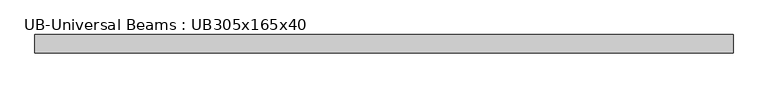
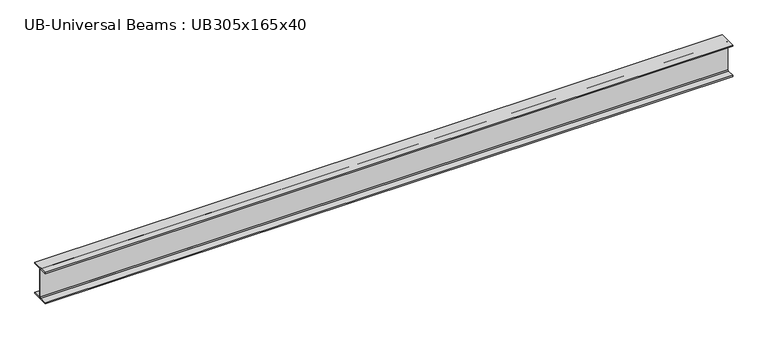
"""IFC4 building model written with IfcOpenShell, lengths in millimetres: beam geometry, UB-Universal Beams : UB305x165x40."""

import ifcopenshell
import ifcopenshell.guid

model = None  # the IFC model being written
_history = None  # IfcOwnerHistory: only IFC2X3 demands one
_inside = {}  # id of a spatial element -> (the spatial element, [elements in it])
_under = {}  # id of a project, library or spatial element -> (it, [spatial elements below it])
_declared = {}  # id of a project -> (the project, [libraries it declares])
_typed = {}  # id of a type object -> (the type object, [elements of that type])
_made_of = {}  # id of a material, layer set ... -> (it, [elements and type objects made of it])


def new_model(schema):
    """Start an empty IFC model of exactly this schema.

    Asked for "IFC4X3", IfcOpenShell would pick the latest addendum, in which some entities
    have other attributes; the version numbers below select the first issue.
    IFC2X3 requires an IfcOwnerHistory on every rooted entity: one is made here for all.
    """
    global model, _history
    if schema == "IFC4X3":
        model = ifcopenshell.file(schema_version=(4, 3, 0, 0))
    else:
        model = ifcopenshell.file(schema=schema)
    _inside.clear()
    _under.clear()
    _declared.clear()
    _typed.clear()
    _made_of.clear()
    _history = None
    if model.schema == "IFC2X3":
        org = make("IfcOrganization", Name="unknown")
        user = make(
            "IfcPersonAndOrganization",
            ThePerson=make("IfcPerson", FamilyName="unknown"),
            TheOrganization=org,
        )
        app = make(
            "IfcApplication",
            ApplicationDeveloper=org,
            Version="unknown",
            ApplicationFullName="unknown",
            ApplicationIdentifier="unknown",
        )
        _history = make(
            "IfcOwnerHistory",
            OwningUser=user,
            OwningApplication=app,
            ChangeAction="ADDED",
            CreationDate=0,
        )
    return model


def make(cls, **values):
    """One entity of the class cls with the attributes given. An attribute that is None is left unset."""
    return model.create_entity(
        cls, **{name: value for name, value in values.items() if value is not None}
    )


def rooted(cls, **values):
    """An entity with a GlobalId (a new one), such as an element, a storey or a relation."""
    return make(cls, GlobalId=ifcopenshell.guid.new(), OwnerHistory=_history, **values)


def si_unit(unit_type, name, prefix=None):
    """IfcSIUnit, for example si_unit("LENGTHUNIT", "METRE", prefix="MILLI")."""
    return make("IfcSIUnit", UnitType=unit_type, Prefix=prefix, Name=name)


def assignment(units):
    """IfcUnitAssignment: the units of a project."""
    return None if units is None else make("IfcUnitAssignment", Units=units)


def point(xyz):
    """IfcCartesianPoint."""
    return None if xyz is None else make("IfcCartesianPoint", Coordinates=xyz)


def direction(xyz):
    """IfcDirection."""
    return None if xyz is None else make("IfcDirection", DirectionRatios=xyz)


def frame(location, z_axis=None, x_axis=None):
    """IfcAxis2Placement3D, a coordinate frame: its origin and axes. An axis left out is left unset."""
    return make(
        "IfcAxis2Placement3D",
        Location=point(location),
        Axis=direction(z_axis),
        RefDirection=direction(x_axis),
    )


def frame_2d(location, x_axis=None):
    """IfcAxis2Placement2D, a coordinate frame in the plane: its origin and x axis."""
    return make(
        "IfcAxis2Placement2D", Location=point(location), RefDirection=direction(x_axis)
    )


def origin():
    """The frame at (0, 0, 0) with its axes left unset."""
    return frame((0.0, 0.0, 0.0))


def place(relative_to, where):
    """IfcLocalPlacement: puts the frame where relative to a parent placement (None: the world)."""
    return make(
        "IfcLocalPlacement", PlacementRelTo=relative_to, RelativePlacement=where
    )


def context(
    kind, dimensions, precision=None, world=None, true_north=None, identifier=None
):
    """IfcGeometricRepresentationContext, for example the 3D "Model" context."""
    return make(
        "IfcGeometricRepresentationContext",
        ContextIdentifier=identifier,
        ContextType=kind,
        CoordinateSpaceDimension=dimensions,
        Precision=precision,
        WorldCoordinateSystem=world,
        TrueNorth=true_north,
    )


def project(units=None, contexts=None):
    """IfcProject with its units and contexts."""
    return rooted(
        "IfcProject",
        Name="project",
        RepresentationContexts=contexts,
        UnitsInContext=assignment(units),
    )


def spatial(cls, under=None, at=None, **own):
    """A site, building, storey or space (cls), placed at a placement, below another one or the project."""
    s = rooted(cls, ObjectPlacement=at, **own)
    if under is not None:
        _under.setdefault(under.id(), (under, []))[1].append(s)
    return s


def polyline(points):
    """IfcPolyline through the points."""
    return make("IfcPolyline", Points=[point(p) for p in points])


def circle_curve(where, radius):
    """IfcCircle in the frame where."""
    return make("IfcCircle", Position=where, Radius=radius)


def trimmed(basis, trim1, trim2, sense, master):
    """IfcTrimmedCurve: the piece of a basis curve between two trims."""
    return make(
        "IfcTrimmedCurve",
        BasisCurve=basis,
        Trim1=trim1,
        Trim2=trim2,
        SenseAgreement=sense,
        MasterRepresentation=master,
    )


def segment(curve, same_sense, transition):
    """IfcCompositeCurveSegment."""
    return make(
        "IfcCompositeCurveSegment",
        Transition=transition,
        SameSense=same_sense,
        ParentCurve=curve,
    )


def composite_curve(segments, self_intersect=None):
    """IfcCompositeCurve: segments joined end to end."""
    return make("IfcCompositeCurve", Segments=segments, SelfIntersect=self_intersect)


def outline(outer, holes=None, kind="AREA"):
    """IfcArbitraryClosedProfileDef: a profile drawn as a closed curve; with holes, ...WithVoids."""
    if holes is None:
        return make("IfcArbitraryClosedProfileDef", ProfileType=kind, OuterCurve=outer)
    return make(
        "IfcArbitraryProfileDefWithVoids",
        ProfileType=kind,
        OuterCurve=outer,
        InnerCurves=holes,
    )


def extrude(swept, where, along, depth):
    """IfcExtrudedAreaSolid: the profile swept, set in the frame where, extruded along a direction by depth."""
    return make(
        "IfcExtrudedAreaSolid",
        SweptArea=swept,
        Position=where,
        ExtrudedDirection=direction(along),
        Depth=depth,
    )


def shape(context_of_items, identifier, shape_type, items):
    """IfcShapeRepresentation: the items that make up one representation, for example the "Body"."""
    return make(
        "IfcShapeRepresentation",
        ContextOfItems=context_of_items,
        RepresentationIdentifier=identifier,
        RepresentationType=shape_type,
        Items=items,
    )


def source(mapping_origin, context_of_items, identifier, shape_type, items):
    """IfcRepresentationMap: a shape defined once, which mapped items show again and again."""
    return make(
        "IfcRepresentationMap",
        MappingOrigin=mapping_origin,
        MappedRepresentation=shape(context_of_items, identifier, shape_type, items),
    )


def transform(
    local_origin,
    x_axis=None,
    y_axis=None,
    z_axis=None,
    scale=None,
    scale2=None,
    scale3=None,
    uniform=True,
):
    """IfcCartesianTransformationOperator3D, or its non-uniform kind. x_axis, y_axis, z_axis: its Axis1, 2, 3."""
    if uniform:
        return make(
            "IfcCartesianTransformationOperator3D",
            Axis1=direction(x_axis),
            Axis2=direction(y_axis),
            LocalOrigin=point(local_origin),
            Scale=scale,
            Axis3=direction(z_axis),
        )
    return make(
        "IfcCartesianTransformationOperator3DnonUniform",
        Axis1=direction(x_axis),
        Axis2=direction(y_axis),
        LocalOrigin=point(local_origin),
        Scale=scale,
        Axis3=direction(z_axis),
        Scale2=scale2,
        Scale3=scale3,
    )


def mapped(mapping_source, mapping_target):
    """IfcMappedItem: shows the shape of a source again, moved by a transform."""
    return make(
        "IfcMappedItem", MappingSource=mapping_source, MappingTarget=mapping_target
    )


def made_of(thing, what):
    """Note that an element or type object is made of a material, layer set ...; save() writes the relation."""
    if what is not None:
        _made_of.setdefault(what.id(), (what, []))[1].append(thing)
    return thing


def element(
    cls,
    number,
    at=None,
    inside=None,
    cuts=None,
    type_object=None,
    material=None,
    context=None,
    identifier="Body",
    shape_type=None,
    held_by="IfcProductDefinitionShape",
    body=None,
    shapes=None,
    **own,
):
    """One element of the class cls, such as IfcWall. Its Tag is "e" and its number.

    at: its placement. inside: the storey or other place that contains it. cuts: it is an
    opening in that element (IfcRelVoidsElement). A single representation is given by context,
    identifier, shape_type and body (its items); several are given by shapes. held_by: the class
    of the entity that holds the representations. save() writes the other relations.
    """
    e = rooted(cls, Tag="e%d" % number, ObjectPlacement=at, **own)
    if body is not None:
        shapes = [shape(context, identifier, shape_type, body)]
    if shapes is not None:
        e.Representation = make(held_by, Representations=shapes)
    if inside is not None:
        _inside.setdefault(inside.id(), (inside, []))[1].append(e)
    if cuts is not None:
        rooted(
            "IfcRelVoidsElement", RelatingBuildingElement=cuts, RelatedOpeningElement=e
        )
    if type_object is not None:
        _typed.setdefault(type_object.id(), (type_object, []))[1].append(e)
    return made_of(e, material)


def aggregate(whole, parts):
    """IfcRelAggregates: a whole, such as a stair, and the parts it consists of."""
    return rooted("IfcRelAggregates", RelatingObject=whole, RelatedObjects=parts)


def save(model, path):
    """Write the relations noted so far, then the file.

    IfcRelAggregates (storeys below a building ...), IfcRelContainedInSpatialStructure (elements
    in a storey), IfcRelDefinesByType, IfcRelAssociatesMaterial and IfcRelDeclares: one each for
    every whole, place, type object, material and project.
    """
    for whole, parts in _under.values():
        aggregate(whole, parts)
    for where, things in _inside.values():
        rooted(
            "IfcRelContainedInSpatialStructure",
            RelatedElements=things,
            RelatingStructure=where,
        )
    for kind, things in _typed.values():
        rooted("IfcRelDefinesByType", RelatedObjects=things, RelatingType=kind)
    for what, things in _made_of.values():
        rooted("IfcRelAssociatesMaterial", RelatedObjects=things, RelatingMaterial=what)
    for by, libraries in _declared.values():
        rooted("IfcRelDeclares", RelatingContext=by, RelatedDefinitions=libraries)
    model.write(path)


def ub_universal_beams_ub305x165x40_9898df02(model_context):
    return source(origin(), model_context, "Body", "SweptSolid", [
        extrude(outline(composite_curve([segment(polyline([(82.5, -141.5), (82.5, -151.7), (-82.5, -151.7), (-82.5, -141.5), (-11.9, -141.5)]), True, "CONTINUOUS"), segment(trimmed(circle_curve(frame_2d((-11.9, -132.6)), 8.9), [point((-11.9, -141.5))], [point((-3.0, -132.6))], True, "CARTESIAN"), True, "CONTINUOUS"), segment(polyline([(-3.0, -132.6), (-3.0, 132.6)]), True, "CONTINUOUS"), segment(trimmed(circle_curve(frame_2d((-11.9, 132.6)), 8.9), [point((-3.0, 132.6))], [point((-11.9, 141.5))], True, "CARTESIAN"), True, "CONTINUOUS"), segment(polyline([(-11.9, 141.5), (-82.5, 141.5), (-82.5, 151.7), (82.5, 151.7), (82.5, 141.5), (11.9, 141.5)]), True, "CONTINUOUS"), segment(trimmed(circle_curve(frame_2d((11.9, 132.6)), 8.9), [point((11.9, 141.5))], [point((3.0, 132.6))], True, "CARTESIAN"), True, "CONTINUOUS"), segment(polyline([(3.0, 132.6), (3.0, -132.6)]), True, "CONTINUOUS"), segment(trimmed(circle_curve(frame_2d((11.9, -132.6)), 8.9), [point((3.0, -132.6))], [point((11.9, -141.5))], True, "CARTESIAN"), True, "CONTINUOUS"), segment(polyline([(11.9, -141.5), (82.5, -141.5)]), True, "CONTINUOUS")], self_intersect=False)), frame((-3305.55, 0.0, 0.0), z_axis=(1.0, 0.0, 0.0), x_axis=(0.0, 1.0, 0.0)), (0.0, 0.0, 1.0), 6304.6),
    ])


if __name__ == "__main__":
    model = new_model("IFC4")
    model_context = context("Model", 3, world=origin())
    ifc_project = project(units=[si_unit("LENGTHUNIT", "METRE", prefix="MILLI")], contexts=[model_context])
    site = spatial("IfcSite", under=ifc_project)
    building = spatial("IfcBuilding", under=site)
    placement = place(None, origin())
    ub_universal_beams_ub305x165x40_shape = ub_universal_beams_ub305x165x40_9898df02(model_context)
    element("IfcBeam", 1, ObjectType="UB-Universal Beams : UB305x165x40", at=placement, inside=building, context=model_context, shape_type="MappedRepresentation", body=[
        mapped(ub_universal_beams_ub305x165x40_shape, transform((0.0, 0.0, 0.0), x_axis=(1.0, 0.0, 0.0), y_axis=(0.0, 1.0, 0.0), z_axis=(0.0, 0.0, 1.0))),
    ])
    save(model, "model.ifc")
